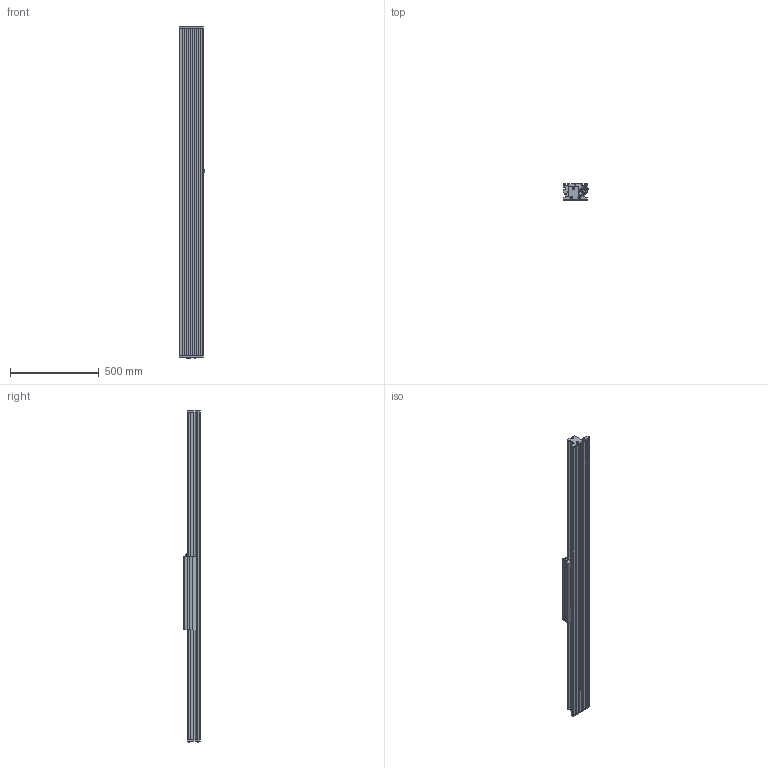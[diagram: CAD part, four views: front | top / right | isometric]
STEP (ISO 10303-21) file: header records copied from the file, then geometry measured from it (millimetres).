
FILE_DESCRIPTION (( 'STEP AP214' ), '1' );
FILE_NAME ('SINADRIVES Linear Motor Stage MLL20630XS-XX-1-0-ST-00-01860.STEP', '2015-07-07T07:55:48', ( 'Tecnico' ), ( '' ), 'SwSTEP 2.0', 'SolidWorks 2009', '' );
FILE_SCHEMA (( 'AUTOMOTIVE_DESIGN' ));
Length unit declared in the file: millimetre
Products named in the file (7): SINADRIVES CARRIAGE MLL20630XS-1; CARRIAGE MLL20630; Connector power+signal Y-tec 45; SINADRIVES PROFILE MLL2XXXX-1844; SINADRIVES ENDBLOCK MLL2; SINADRIVES ENDBLOCK MLL2-2; SINADRIVES Linear Motor Stage MLL20630XS-XX-1-0-ST-00-01860
Assembly tree (6 placements, depth 3):
  SINADRIVES Linear Motor Stage MLL20630XS-XX-1-0-ST-00-01860
    SINADRIVES ENDBLOCK MLL2
    SINADRIVES PROFILE MLL2XXXX-1844
    SINADRIVES ENDBLOCK MLL2-2
    SINADRIVES CARRIAGE MLL20630XS-1
      CARRIAGE MLL20630
      Connector power+signal Y-tec 45
Bounding box: 144.43 x 91 x 1868.8 mm (x, y, z)
Volume: 9699968.8 mm3; surface area: 1651890.9 mm2
Topology: 2 solids, 42 shells, 950 faces, 2640 edges, 1730 vertices
Faces by surface type: plane 445, cylinder 302, bspline 79, cone 70, torus 42, sphere 12
Entity records: 40587 total; most frequent: CARTESIAN_POINT 8656, ORIENTED_EDGE 5024, DIRECTION 4947, EDGE_CURVE 2622, AXIS2_PLACEMENT_3D 1781, VERTEX_POINT 1730, VECTOR 1385, LINE 1385
